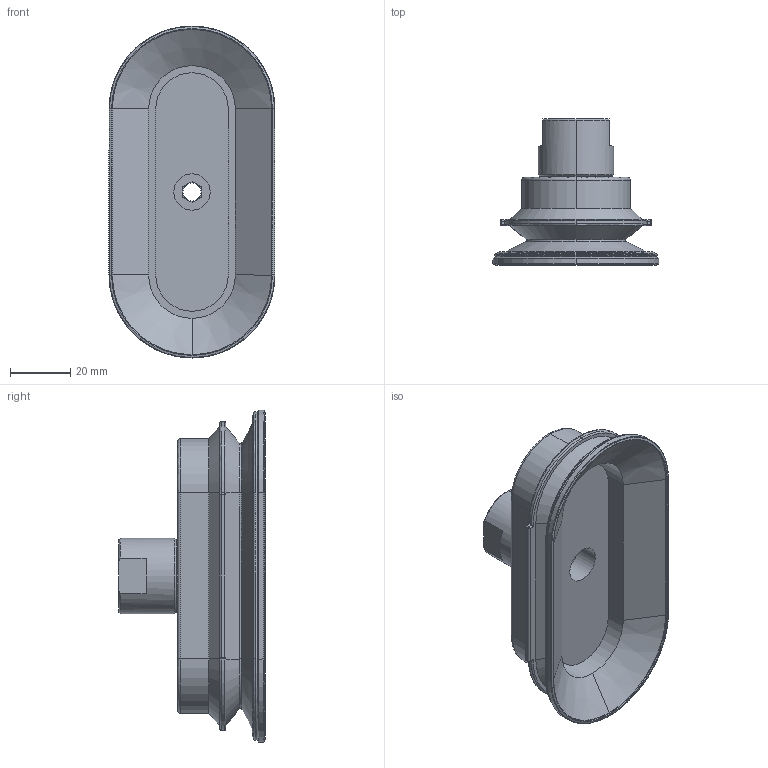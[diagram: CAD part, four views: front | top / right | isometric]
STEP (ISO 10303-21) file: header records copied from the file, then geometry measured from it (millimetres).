
FILE_DESCRIPTION (( 'STEP AP214' ), '1' );
FILE_NAME ('SAOB-110x55-G3-8IG.STEP', '2023-03-07T06:14:28', ( 'Windows User' ), ( 'P R C' ), 'SwSTEP 2.0', 'SolidWorks 2019', '' );
FILE_SCHEMA (( 'AUTOMOTIVE_DESIGN' ));
Length unit declared in the file: millimetre
Products named in the file (1): SAOB-110x55-G3-8IG
Bounding box: 55 x 48.4 x 110 mm (x, y, z)
Volume: 66079.4 mm3; surface area: 27170.1 mm2
Topology: 2 solids, 2 shells, 245 faces, 563 edges, 332 vertices
Faces by surface type: plane 94, cylinder 62, bspline 56, cone 33
Entity records: 12036 total; most frequent: CARTESIAN_POINT 3972, ORIENTED_EDGE 1118, DIRECTION 1088, EDGE_CURVE 559, AXIS2_PLACEMENT_3D 394, VERTEX_POINT 332, VECTOR 300, LINE 300
